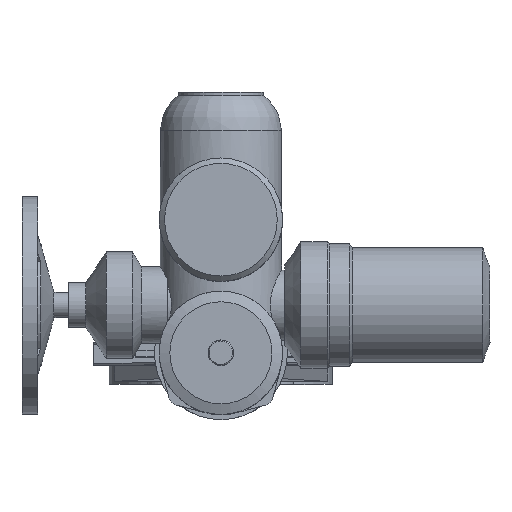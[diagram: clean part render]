
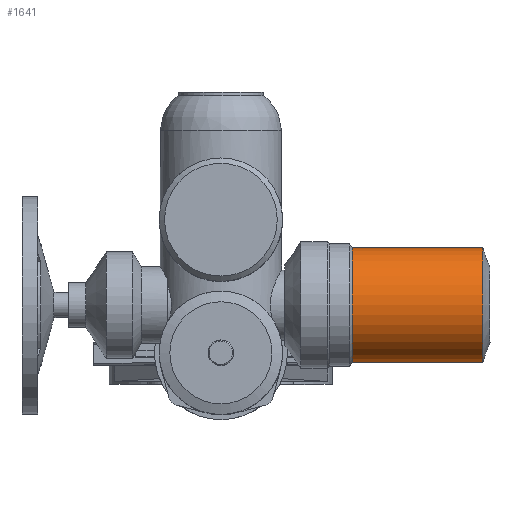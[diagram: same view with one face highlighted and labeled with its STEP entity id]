
A CAD part, top view. The second image highlights one B-rep face of the part: STEP entity #1641.
In plain terms, the highlighted cylindrical face has radius 54 mm (diameter 108 mm), a full revolution.
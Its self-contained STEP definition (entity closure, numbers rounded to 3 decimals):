
#1641=ADVANCED_FACE('',(#3547,#3549),#3551,.T.);
#3547=FACE_OUTER_BOUND('',#3548,.T.);
#3548=EDGE_LOOP('',(#4916));
#3549=FACE_OUTER_BOUND('',#3550,.T.);
#3550=EDGE_LOOP('',(#4917));
#3551=CYLINDRICAL_SURFACE('',#3552,54.);
#3552=AXIS2_PLACEMENT_3D('',#3553,#3554,#3555);
#3553=CARTESIAN_POINT('',(246.085,45.,573.));
#3554=DIRECTION('',(-1.,0.,0.));
#3555=DIRECTION('',(0.,0.,1.));
#4916=ORIENTED_EDGE('',*,*,#5693,.T.);
#4917=ORIENTED_EDGE('',*,*,#5593,.F.);
#5593=EDGE_CURVE('',#6448,#6448,#6449,.T.);
#5693=EDGE_CURVE('',#6606,#6606,#6607,.T.);
#6448=VERTEX_POINT('',#9375);
#6449=CIRCLE('',#9376,54.);
#6606=VERTEX_POINT('',#9759);
#6607=CIRCLE('',#9760,54.);
#9375=CARTESIAN_POINT('',(123.505,45.,627.));
#9376=AXIS2_PLACEMENT_3D('',#9377,#9378,#9379);
#9377=CARTESIAN_POINT('',(123.505,45.,573.));
#9378=DIRECTION('',(-1.,0.,0.));
#9379=DIRECTION('',(0.,0.,1.));
#9759=CARTESIAN_POINT('',(246.085,45.,627.));
#9760=AXIS2_PLACEMENT_3D('',#9761,#9762,#9763);
#9761=CARTESIAN_POINT('',(246.085,45.,573.));
#9762=DIRECTION('',(-1.,0.,0.));
#9763=DIRECTION('',(0.,0.,1.));
